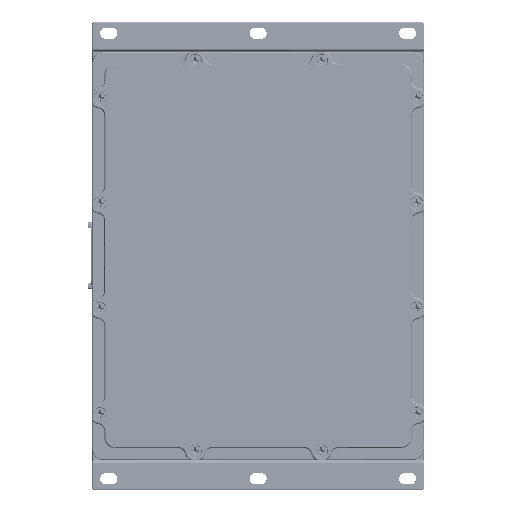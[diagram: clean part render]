
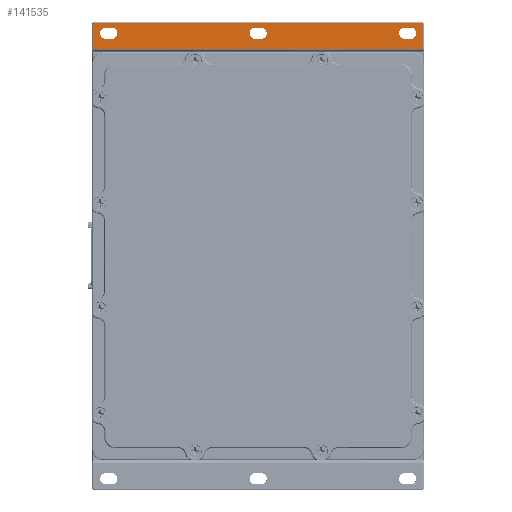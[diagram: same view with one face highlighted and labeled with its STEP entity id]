
A CAD part, top view. The second image highlights one B-rep face of the part: STEP entity #141535.
In plain terms, the highlighted planar face has unit normal (0.018, 0, 1).
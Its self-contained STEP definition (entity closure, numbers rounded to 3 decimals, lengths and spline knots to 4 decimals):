
#3445=ELLIPSE('',#151490,0.04,0.04);
#3447=ELLIPSE('',#151495,0.04,0.04);
#5303=FACE_BOUND('',#29130,.T.);
#5304=FACE_BOUND('',#29131,.T.);
#5305=FACE_BOUND('',#29132,.T.);
#6252=PLANE('',#151508);
#20169=FACE_OUTER_BOUND('',#29129,.T.);
#29129=EDGE_LOOP('',(#103497,#103498,#103499,#103500,#103501,#103502));
#29130=EDGE_LOOP('',(#103503,#103504,#103505,#103506));
#29131=EDGE_LOOP('',(#103507,#103508,#103509,#103510));
#29132=EDGE_LOOP('',(#103511,#103512,#103513,#103514));
#41136=CIRCLE('',#151509,0.135);
#41137=CIRCLE('',#151510,0.135);
#41138=CIRCLE('',#151511,0.135);
#41139=CIRCLE('',#151512,0.135);
#41140=CIRCLE('',#151513,0.135);
#41141=CIRCLE('',#151514,0.135);
#48610=LINE('',#237229,#57199);
#48612=LINE('',#237265,#57201);
#48614=LINE('',#237301,#57203);
#48620=LINE('',#237373,#57209);
#48621=LINE('',#237378,#57210);
#48622=LINE('',#237381,#57211);
#48623=LINE('',#237386,#57212);
#48624=LINE('',#237389,#57213);
#48625=LINE('',#237394,#57214);
#48626=LINE('',#237397,#57215);
#57199=VECTOR('',#170662,0.3937);
#57201=VECTOR('',#170674,0.3937);
#57203=VECTOR('',#170686,0.3937);
#57209=VECTOR('',#170712,0.3937);
#57210=VECTOR('',#170715,0.3937);
#57211=VECTOR('',#170718,0.3937);
#57212=VECTOR('',#170721,0.3937);
#57213=VECTOR('',#170724,0.3937);
#57214=VECTOR('',#170727,0.3937);
#57215=VECTOR('',#170730,0.3937);
#66603=VERTEX_POINT('',#237221);
#66605=VERTEX_POINT('',#237227);
#66607=VERTEX_POINT('',#237257);
#66609=VERTEX_POINT('',#237263);
#66611=VERTEX_POINT('',#237293);
#66613=VERTEX_POINT('',#237299);
#66620=VERTEX_POINT('',#237374);
#66621=VERTEX_POINT('',#237375);
#66622=VERTEX_POINT('',#237377);
#66623=VERTEX_POINT('',#237379);
#66624=VERTEX_POINT('',#237382);
#66625=VERTEX_POINT('',#237383);
#66626=VERTEX_POINT('',#237385);
#66627=VERTEX_POINT('',#237387);
#66628=VERTEX_POINT('',#237390);
#66629=VERTEX_POINT('',#237391);
#66630=VERTEX_POINT('',#237393);
#66631=VERTEX_POINT('',#237395);
#79935=EDGE_CURVE('',#66605,#66603,#48610,.T.);
#79938=EDGE_CURVE('',#66607,#66605,#3445,.T.);
#79941=EDGE_CURVE('',#66609,#66607,#48612,.T.);
#79944=EDGE_CURVE('',#66611,#66609,#3447,.T.);
#79947=EDGE_CURVE('',#66613,#66611,#48614,.T.);
#79960=EDGE_CURVE('',#66603,#66613,#48620,.T.);
#79961=EDGE_CURVE('',#66620,#66621,#41136,.T.);
#79962=EDGE_CURVE('',#66621,#66622,#48621,.T.);
#79963=EDGE_CURVE('',#66622,#66623,#41137,.T.);
#79964=EDGE_CURVE('',#66623,#66620,#48622,.T.);
#79965=EDGE_CURVE('',#66624,#66625,#41138,.T.);
#79966=EDGE_CURVE('',#66625,#66626,#48623,.T.);
#79967=EDGE_CURVE('',#66626,#66627,#41139,.T.);
#79968=EDGE_CURVE('',#66627,#66624,#48624,.T.);
#79969=EDGE_CURVE('',#66628,#66629,#41140,.T.);
#79970=EDGE_CURVE('',#66629,#66630,#48625,.T.);
#79971=EDGE_CURVE('',#66630,#66631,#41141,.T.);
#79972=EDGE_CURVE('',#66631,#66628,#48626,.T.);
#103497=ORIENTED_EDGE('',*,*,#79935,.F.);
#103498=ORIENTED_EDGE('',*,*,#79938,.F.);
#103499=ORIENTED_EDGE('',*,*,#79941,.F.);
#103500=ORIENTED_EDGE('',*,*,#79944,.F.);
#103501=ORIENTED_EDGE('',*,*,#79947,.F.);
#103502=ORIENTED_EDGE('',*,*,#79960,.F.);
#103503=ORIENTED_EDGE('',*,*,#79961,.T.);
#103504=ORIENTED_EDGE('',*,*,#79962,.T.);
#103505=ORIENTED_EDGE('',*,*,#79963,.T.);
#103506=ORIENTED_EDGE('',*,*,#79964,.T.);
#103507=ORIENTED_EDGE('',*,*,#79965,.T.);
#103508=ORIENTED_EDGE('',*,*,#79966,.T.);
#103509=ORIENTED_EDGE('',*,*,#79967,.T.);
#103510=ORIENTED_EDGE('',*,*,#79968,.T.);
#103511=ORIENTED_EDGE('',*,*,#79969,.T.);
#103512=ORIENTED_EDGE('',*,*,#79970,.T.);
#103513=ORIENTED_EDGE('',*,*,#79971,.T.);
#103514=ORIENTED_EDGE('',*,*,#79972,.T.);
#141535=ADVANCED_FACE('',(#20169,#5303,#5304,#5305),#6252,.T.);
#151490=AXIS2_PLACEMENT_3D('',#237259,#170666,#170667);
#151495=AXIS2_PLACEMENT_3D('',#237295,#170678,#170679);
#151508=AXIS2_PLACEMENT_3D('',#237372,#170710,#170711);
#151509=AXIS2_PLACEMENT_3D('',#237376,#170713,#170714);
#151510=AXIS2_PLACEMENT_3D('',#237380,#170716,#170717);
#151511=AXIS2_PLACEMENT_3D('',#237384,#170719,#170720);
#151512=AXIS2_PLACEMENT_3D('',#237388,#170722,#170723);
#151513=AXIS2_PLACEMENT_3D('',#237392,#170725,#170726);
#151514=AXIS2_PLACEMENT_3D('',#237396,#170728,#170729);
#170662=DIRECTION('',(0.,-1.,0.));
#170666=DIRECTION('center_axis',(-0.017,0.,
-1.));
#170667=DIRECTION('ref_axis',(0.894,0.447,-0.016));
#170674=DIRECTION('',(1.,0.,-0.017));
#170678=DIRECTION('center_axis',(-0.017,0.,
-1.));
#170679=DIRECTION('ref_axis',(-0.894,0.447,0.016));
#170686=DIRECTION('',(0.,1.,0.));
#170710=DIRECTION('center_axis',(0.017,0.,
1.));
#170711=DIRECTION('ref_axis',(0.,-1.,0.));
#170712=DIRECTION('',(-1.,0.,0.017));
#170713=DIRECTION('center_axis',(-0.017,0.,
-1.));
#170714=DIRECTION('ref_axis',(0.,1.,0.));
#170715=DIRECTION('',(1.,0.,-0.017));
#170716=DIRECTION('center_axis',(-0.017,0.,
-1.));
#170717=DIRECTION('ref_axis',(0.,-1.,0.));
#170718=DIRECTION('',(-1.,0.,0.017));
#170719=DIRECTION('center_axis',(-0.017,0.,
-1.));
#170720=DIRECTION('ref_axis',(0.,1.,0.));
#170721=DIRECTION('',(1.,0.,-0.017));
#170722=DIRECTION('center_axis',(-0.017,0.,
-1.));
#170723=DIRECTION('ref_axis',(0.,-1.,0.));
#170724=DIRECTION('',(-1.,0.,0.017));
#170725=DIRECTION('center_axis',(-0.017,0.,
-1.));
#170726=DIRECTION('ref_axis',(0.,1.,0.));
#170727=DIRECTION('',(1.,0.,-0.017));
#170728=DIRECTION('center_axis',(-0.017,0.,
-1.));
#170729=DIRECTION('ref_axis',(0.,-1.,0.));
#170730=DIRECTION('',(-1.,0.,0.017));
#237221=CARTESIAN_POINT('',(7.3378,4.9276,2.2516));
#237227=CARTESIAN_POINT('',(7.3378,5.4983,2.2516));
#237229=CARTESIAN_POINT('',(7.3378,2.7793,2.2516));
#237257=CARTESIAN_POINT('',(7.2978,5.5382,2.2523));
#237259=CARTESIAN_POINT('Origin',(7.2977,5.4982,2.2523));
#237263=CARTESIAN_POINT('',(-0.4658,5.5382,2.3878));
#237265=CARTESIAN_POINT('',(3.416,5.5382,2.32));
#237293=CARTESIAN_POINT('',(-0.5058,5.4983,2.3885));
#237295=CARTESIAN_POINT('Origin',(-0.4657,5.4982,2.3878));
#237299=CARTESIAN_POINT('',(-0.5058,4.9276,2.3885));
#237301=CARTESIAN_POINT('',(-0.5058,2.7793,2.3885));
#237372=CARTESIAN_POINT('Origin',(3.416,5.5586,2.32));
#237373=CARTESIAN_POINT('',(3.416,4.9276,2.32));
#237374=CARTESIAN_POINT('',(3.346,5.1572,2.3212));
#237375=CARTESIAN_POINT('',(3.346,5.4272,2.3212));
#237376=CARTESIAN_POINT('Origin',(3.346,5.2922,2.3212));
#237377=CARTESIAN_POINT('',(3.486,5.4272,2.3188));
#237378=CARTESIAN_POINT('',(3.381,5.4272,2.3206));
#237379=CARTESIAN_POINT('',(3.486,5.1572,2.3188));
#237380=CARTESIAN_POINT('Origin',(3.486,5.2922,2.3188));
#237381=CARTESIAN_POINT('',(3.451,5.1572,2.3194));
#237382=CARTESIAN_POINT('',(6.8955,5.1572,2.2593));
#237383=CARTESIAN_POINT('',(6.8955,5.4272,2.2593));
#237384=CARTESIAN_POINT('Origin',(6.8955,5.2922,2.2593));
#237385=CARTESIAN_POINT('',(7.0354,5.4272,2.2568));
#237386=CARTESIAN_POINT('',(5.1557,5.4272,2.2896));
#237387=CARTESIAN_POINT('',(7.0354,5.1572,2.2568));
#237388=CARTESIAN_POINT('Origin',(7.0354,5.2922,2.2568));
#237389=CARTESIAN_POINT('',(5.2257,5.1572,2.2884));
#237390=CARTESIAN_POINT('',(-0.2034,5.1572,2.3832));
#237391=CARTESIAN_POINT('',(-0.2034,5.4272,2.3832));
#237392=CARTESIAN_POINT('Origin',(-0.2034,5.2922,2.3832));
#237393=CARTESIAN_POINT('',(-0.0635,5.4272,2.3807));
#237394=CARTESIAN_POINT('',(1.6063,5.4272,2.3516));
#237395=CARTESIAN_POINT('',(-0.0635,5.1572,2.3807));
#237396=CARTESIAN_POINT('Origin',(-0.0635,5.2922,
2.3807));
#237397=CARTESIAN_POINT('',(1.6763,5.1572,2.3504));
